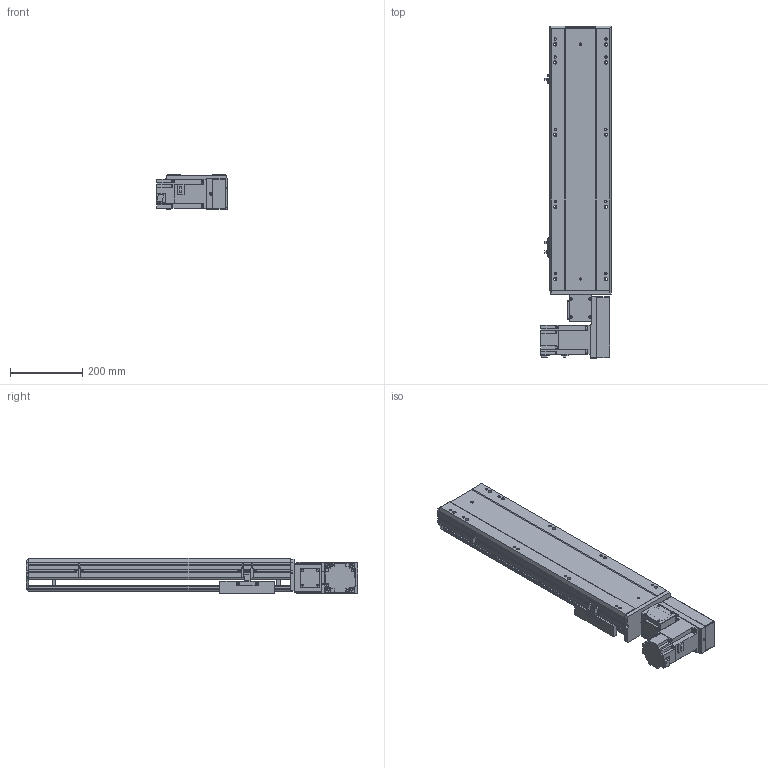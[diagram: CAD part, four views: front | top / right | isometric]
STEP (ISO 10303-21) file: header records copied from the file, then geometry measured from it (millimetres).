
FILE_DESCRIPTION (( 'STEP AP203' ), '1' );
FILE_NAME ('BTB17-L50-450-L-T75-C4.STEP', '2022-07-26T01:04:26', ( 'CXY' ), ( 'BT' ), 'SwSTEP 2.0', 'SolidWorks 2016', '' );
FILE_SCHEMA (( 'CONFIG_CONTROL_DESIGN' ));
Length unit declared in the file: millimetre
Products named in the file (10): BTB17-L-23; BTB17-L-01; BTB17-L-菁釱_XD; BTB17-L-24; BTB17-L-04; BTB17-L-02; BTB17-L-HZ; T75; BTB17-L50-450-L-T75-C4; BTB17-L-06
Assembly tree (12 placements, depth 2):
  BTB17-L50-450-L-T75-C4
    BTB17-L-菁釱_XD
    BTB17-L-01
    BTB17-L-04  x3
    BTB17-L-06
    BTB17-L-23  x2
    BTB17-L-24
    BTB17-L-HZ
    BTB17-L-02
    T75
Bounding box: 195.3 x 919.5 x 97 mm (x, y, z)
Volume: 7764989.9 mm3; surface area: 1125402.4 mm2
Topology: 22 solids, 22 shells, 1552 faces, 4089 edges, 2590 vertices
Faces by surface type: plane 864, cylinder 516, cone 136, bspline 20, torus 16
Entity records: 39593 total; most frequent: CARTESIAN_POINT 7448, DIRECTION 6571, ORIENTED_EDGE 6354, EDGE_CURVE 3177, AXIS2_PLACEMENT_3D 2237, LINE 2097, VECTOR 2097, VERTEX_POINT 2058
